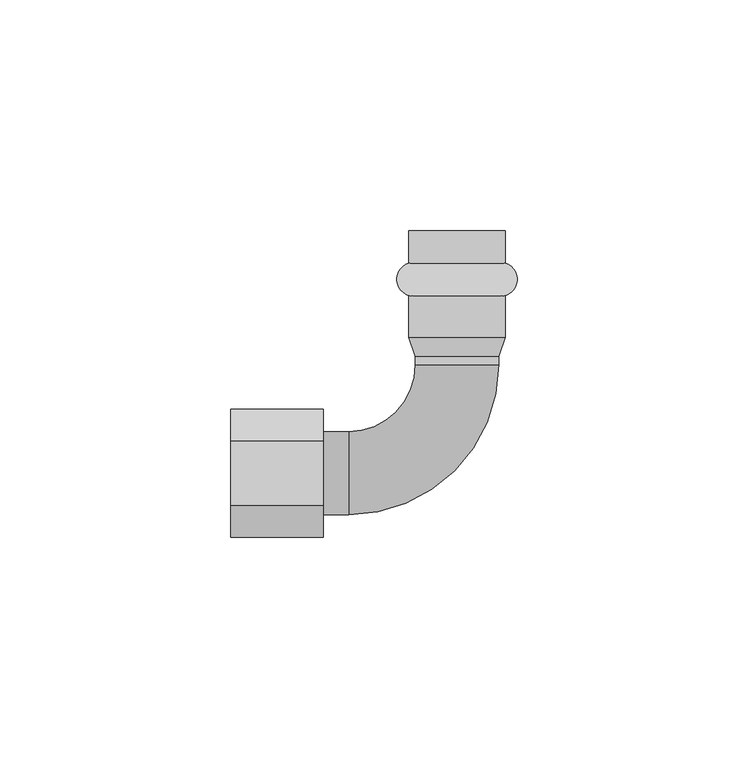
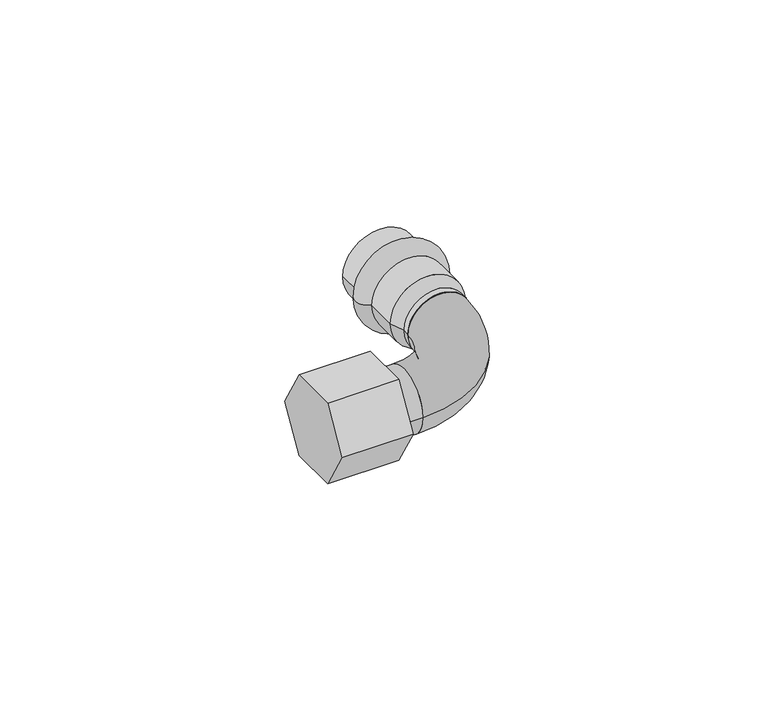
"""IFC4 building model written with IfcOpenShell, lengths in millimetres: valve geometry, Отвод_90°_с_переходом_на_внутреннюю_или_наружнюю_резьбу : VTi.956.I."""

from ifc_helpers import new_model, si_unit, point, frame, origin, place, context, project, spatial, polyline, circle_curve, ellipse_curve, trimmed, outline, extrude, source, transform, mapped, element, save
from ifc_brep_helpers import plane_surface, cylinder_surface, revolved_surface, advanced_brep


def valve_20bf21a3(model_context):
    return source(origin(), model_context, "Body", "SolidModel", [
        extrude(outline(polyline([(-6.9282032, 12.0), (6.9282032, 12.0), (13.8564065, 0.0), (6.9282032, -12.0), (-6.9282032, -12.0), (-13.8564065, 0.0), (-6.9282032, 12.0)])), frame((-49.0, 0.0, 0.0), z_axis=(1.0, 0.0, 0.0), x_axis=(0.0, 1.0, 0.0)), (0.0, 0.0, 1.0), 20.0),
        advanced_brep(
        [(10.45, 45.51, 0.0), (-10.45, 45.51, 0.0), (-10.45, 52.5, 0.0), (10.45, 52.5, 0.0), (10.45, 38.49, 0.0), (-10.45, 38.49, 0.0), (10.45, 29.5, 0.0), (-10.45, 29.5, 0.0), (9.0, 25.38, 0.0), (-9.0, 25.38, 0.0), (9.0, 23.5, 0.0), (-9.0, 23.5, 0.0), (0.0, 23.5, 0.0), (0.0, 52.5, 0.0)],
        [
            (0, 1, circle_curve(frame((0.0, 45.51, 0.0), z_axis=(0.0, 1.0, 0.0), x_axis=(-1.0, 0.0, 0.0)), 10.45)),
            (1, 2),
            (2, 3, circle_curve(frame((0.0, 52.5, 0.0), z_axis=(0.0, -1.0, 0.0), x_axis=(-1.0, 0.0, 0.0)), 10.45)),
            (3, 0),
            (1, 0, circle_curve(frame((0.0, 45.51, 0.0), z_axis=(0.0, 1.0, 0.0), x_axis=(-1.0, 0.0, 0.0)), 10.45)),
            (3, 2, circle_curve(frame((0.0, 52.5, 0.0), z_axis=(0.0, -1.0, 0.0), x_axis=(-1.0, 0.0, 0.0)), 10.45)),
            (4, 5, circle_curve(frame((0.0, 38.49, 0.0), z_axis=(0.0, 1.0, 0.0), x_axis=(-1.0, 0.0, 0.0)), 10.45)),
            (5, 1, circle_curve(frame((-9.3504491, 42.0, 0.0), z_axis=(0.0, 0.0, -1.0), x_axis=(0.0, 1.0, 0.0)), 3.6781941)),
            (0, 4, circle_curve(frame((9.3504491, 42.0, 0.0), z_axis=(0.0, 0.0, -1.0), x_axis=(0.0, 1.0, 0.0)), 3.6781941)),
            (5, 4, circle_curve(frame((0.0, 38.49, 0.0), z_axis=(0.0, 1.0, 0.0), x_axis=(-1.0, 0.0, 0.0)), 10.45)),
            (6, 7, circle_curve(frame((0.0, 29.5, 0.0), z_axis=(0.0, 1.0, 0.0), x_axis=(-1.0, 0.0, 0.0)), 10.45)),
            (7, 5),
            (4, 6),
            (7, 6, circle_curve(frame((0.0, 29.5, 0.0), z_axis=(0.0, 1.0, 0.0), x_axis=(-1.0, 0.0, 0.0)), 10.45)),
            (8, 9, circle_curve(frame((0.0, 25.38, 0.0), z_axis=(0.0, 1.0, 0.0), x_axis=(-1.0, 0.0, 0.0)), 9.0)),
            (9, 7),
            (6, 8),
            (9, 8, circle_curve(frame((0.0, 25.38, 0.0), z_axis=(0.0, 1.0, 0.0), x_axis=(-1.0, 0.0, 0.0)), 9.0)),
            (10, 11, circle_curve(frame((0.0, 23.5, 0.0), z_axis=(0.0, 1.0, 0.0), x_axis=(-1.0, 0.0, 0.0)), 9.0)),
            (11, 9),
            (8, 10),
            (11, 10, circle_curve(frame((0.0, 23.5, 0.0), z_axis=(0.0, 1.0, 0.0), x_axis=(-1.0, 0.0, 0.0)), 9.0)),
            (12, 11),
            (10, 12),
            (2, 13),
            (13, 3),
        ],
        [
            cylinder_surface(frame((0.0, 2052.5, 0.0), z_axis=(0.0, -1.0, 0.0), x_axis=(-1.0, 0.0, 0.0)), 10.45),
            revolved_surface(trimmed(ellipse_curve(frame((-9.3504491, 42.0, 0.0), z_axis=(0.0, 0.0, 1.0), x_axis=(0.0, 1.0, 0.0)), 3.6781941, 3.6781941), [point((-10.45, 45.51, 0.0))], [point((-10.45, 38.49, 0.0))], True, "CARTESIAN"), (0.0, 2052.5, 0.0), (0.0, -1.0, 0.0)),
            revolved_surface(polyline([(-10.45, 29.5, 0.0), (-9.0, 25.38, 0.0)]), (0.0, 2052.5, 0.0), (0.0, -1.0, 0.0)),
            cylinder_surface(frame((0.0, 2052.5, 0.0), z_axis=(0.0, -1.0, 0.0), x_axis=(-1.0, 0.0, 0.0)), 9.0),
            plane_surface(frame((0.0, 23.5, 0.0), z_axis=(0.0, -1.0, 0.0), x_axis=(-1.0, 0.0, 0.0))),
            plane_surface(frame((0.0, 52.5, 0.0), z_axis=(0.0, 1.0, 0.0), x_axis=(-1.0, 0.0, 0.0))),
        ],
        [
            (0, [[1, 2, 3, 4]]),
            (0, [[5, -4, 6, -2]]),
            (1, [[7, 8, -1, 9]]),
            (1, [[10, -9, -5, -8]]),
            (0, [[11, 12, -7, 13]]),
            (0, [[14, -13, -10, -12]]),
            (2, [[15, 16, -11, 17]]),
            (2, [[18, -17, -14, -16]]),
            (3, [[19, 20, -15, 21]]),
            (3, [[22, -21, -18, -20]]),
            (4, [[23, -19, 24]]),
            (4, [[-24, -22, -23]]),
            (5, [[-3, 25, 26]]),
            (5, [[-6, -26, -25]]),
        ],
    ),
        advanced_brep(
        [(-23.5, -9.0, 0.0), (-23.5, 9.0, 0.0), (-23.5, 0.0, 0.0), (-29.0, -9.0, 0.0), (-29.0, 9.0, 0.0), (-29.0, 0.0, 0.0)],
        [
            (0, 1, circle_curve(frame((-23.5, 0.0, 0.0), z_axis=(1.0, 0.0, 0.0), x_axis=(0.0, 1.0, 0.0)), 9.0)),
            (1, 2),
            (2, 0),
            (1, 0, circle_curve(frame((-23.5, 0.0, 0.0), z_axis=(1.0, 0.0, 0.0), x_axis=(0.0, 1.0, 0.0)), 9.0)),
            (3, 4, circle_curve(frame((-29.0, 0.0, 0.0), z_axis=(1.0, 0.0, 0.0), x_axis=(0.0, 1.0, 0.0)), 9.0)),
            (4, 1),
            (0, 3),
            (4, 3, circle_curve(frame((-29.0, 0.0, 0.0), z_axis=(1.0, 0.0, 0.0), x_axis=(0.0, 1.0, 0.0)), 9.0)),
            (5, 4),
            (3, 5),
        ],
        [
            plane_surface(frame((-23.5, 0.0, 0.0), z_axis=(1.0, 0.0, 0.0), x_axis=(0.0, 1.0, 0.0))),
            cylinder_surface(frame((2000.0, 0.0, 0.0), z_axis=(-1.0, 0.0, 0.0), x_axis=(0.0, 1.0, 0.0)), 9.0),
            plane_surface(frame((-29.0, 0.0, 0.0), z_axis=(-1.0, 0.0, 0.0), x_axis=(0.0, 1.0, 0.0))),
        ],
        [
            (0, [[1, 2, 3]]),
            (0, [[4, -3, -2]]),
            (1, [[5, 6, -1, 7]]),
            (1, [[8, -7, -4, -6]]),
            (2, [[9, -5, 10]]),
            (2, [[-10, -8, -9]]),
        ],
    ),
        advanced_brep(
        [(-9.0, 23.5, 0.0), (9.0, 23.5, 0.0), (-23.5, 9.0, 0.0), (-23.5, -9.0, 0.0)],
        [
            (0, 1, circle_curve(frame((0.0, 23.5, 0.0), z_axis=(0.0, 1.0, 0.0), x_axis=(1.0, 0.0, 0.0)), 9.0)),
            (1, 0, circle_curve(frame((0.0, 23.5, 0.0), z_axis=(0.0, 1.0, 0.0), x_axis=(1.0, 0.0, 0.0)), 9.0)),
            (2, 3, circle_curve(frame((-23.5, 0.0, 0.0), z_axis=(-1.0, 0.0, 0.0), x_axis=(0.0, -1.0, 0.0)), 9.0)),
            (3, 2, circle_curve(frame((-23.5, 0.0, 0.0), z_axis=(-1.0, 0.0, 0.0), x_axis=(0.0, -1.0, 0.0)), 9.0)),
            (3, 1, circle_curve(frame((-23.5, 23.5, 0.0), z_axis=(0.0, 0.0, 1.0), x_axis=(1.0, 0.0, 0.0)), 32.5)),
            (0, 2, circle_curve(frame((-23.5, 23.5, 0.0), z_axis=(0.0, 0.0, -1.0), x_axis=(1.0, 0.0, 0.0)), 14.5)),
        ],
        [
            plane_surface(frame((0.0, 23.5, 0.0), z_axis=(0.0, 1.0, 0.0), x_axis=(0.0, 0.0, 1.0))),
            plane_surface(frame((-23.5, 0.0, 0.0), z_axis=(-1.0, 0.0, 0.0), x_axis=(0.0, 0.0, 1.0))),
            revolved_surface(trimmed(ellipse_curve(frame((0.0, 23.5, 0.0), z_axis=(0.0, 1.0, 0.0), x_axis=(1.0, 0.0, 0.0)), 9.0, 9.0), [point((-9.0, 23.5, 0.0))], [point((9.0, 23.5, 0.0))], True, "CARTESIAN"), (-23.5, 23.5, 0.0), (0.0, 0.0, -1.0)),
            revolved_surface(trimmed(ellipse_curve(frame((0.0, 23.5, 0.0), z_axis=(0.0, 1.0, 0.0), x_axis=(1.0, 0.0, 0.0)), 9.0, 9.0), [point((9.0, 23.5, 0.0))], [point((-9.0, 23.5, 0.0))], True, "CARTESIAN"), (-23.5, 23.5, 0.0), (0.0, 0.0, -1.0)),
        ],
        [
            (0, [[1, 2]]),
            (1, [[3, 4]]),
            (2, [[5, -1, 6, -4]]),
            (3, [[-6, -2, -5, -3]]),
        ],
    ),
    ])


if __name__ == "__main__":
    model = new_model("IFC4")
    model_context = context("Model", 3, world=origin())
    ifc_project = project(units=[si_unit("LENGTHUNIT", "METRE", prefix="MILLI")], contexts=[model_context])
    site = spatial("IfcSite", under=ifc_project)
    building = spatial("IfcBuilding", under=site)
    placement = place(None, origin())
    valve_shape = valve_20bf21a3(model_context)
    element("IfcValve", 1, ObjectType="Отвод_90°_с_переходом_на_внутреннюю_или_наружнюю_резьбу : VTi.956.I", at=placement, inside=building, context=model_context, shape_type="MappedRepresentation", body=[
        mapped(valve_shape, transform((0.0, 0.0, 0.0), x_axis=(1.0, 0.0, 0.0), y_axis=(0.0, 1.0, 0.0), z_axis=(0.0, 0.0, 1.0))),
    ])
    save(model, "model.ifc")
